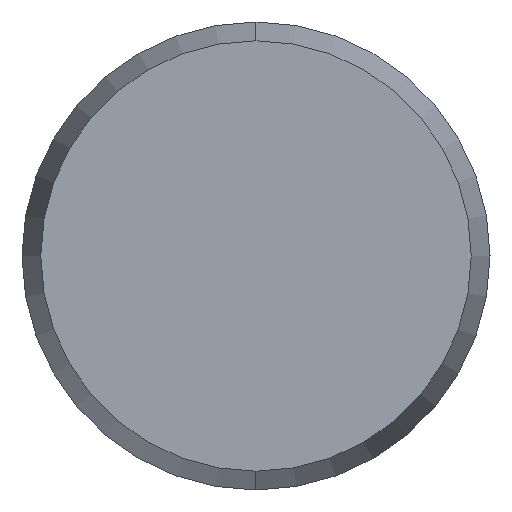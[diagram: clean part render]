
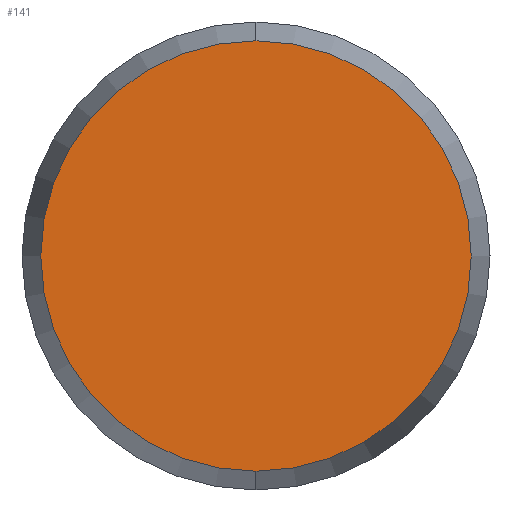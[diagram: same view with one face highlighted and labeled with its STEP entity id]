
A CAD part, left-side view. The second image highlights one B-rep face of the part: STEP entity #141.
In plain terms, the highlighted planar face has unit normal (-1, 0, 0).
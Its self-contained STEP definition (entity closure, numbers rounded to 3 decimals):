
#83 = DIRECTION ( 'NONE',  ( 0., 0., -1. ) ) ;
#84 = DIRECTION ( 'NONE',  ( 1., 0., 0. ) ) ;
#85 = CARTESIAN_POINT ( 'NONE',  ( -40., 0., 0. ) ) ;
#86 = AXIS2_PLACEMENT_3D ( 'NONE', #85, #84, #83 ) ;
#87 = PLANE ( 'NONE',  #86 ) ;
#88 = FACE_OUTER_BOUND ( 'NONE', #142, .T. ) ;
#89 = DIRECTION ( 'NONE',  ( 0., 0., -1. ) ) ;
#90 = DIRECTION ( 'NONE',  ( 1., 0., 0. ) ) ;
#91 = CARTESIAN_POINT ( 'NONE',  ( -40., 0., 0. ) ) ;
#92 = AXIS2_PLACEMENT_3D ( 'NONE', #91, #90, #89 ) ;
#93 = CIRCLE ( 'NONE', #92, 4.598 ) ;
#97 = CARTESIAN_POINT ( 'NONE',  ( -40., 0., -4.598 ) ) ;
#98 = CARTESIAN_POINT ( 'NONE',  ( -40., 0., 4.598 ) ) ;
#99 = DIRECTION ( 'NONE',  ( 0., 0., -1. ) ) ;
#100 = DIRECTION ( 'NONE',  ( 1., 0., 0. ) ) ;
#101 = CARTESIAN_POINT ( 'NONE',  ( -40., 0., 0. ) ) ;
#102 = AXIS2_PLACEMENT_3D ( 'NONE', #101, #100, #99 ) ;
#106 = CIRCLE ( 'NONE', #102, 4.598 ) ;
#130 = ORIENTED_EDGE ( 'NONE', *, *, #138, .F. ) ;
#138 = EDGE_CURVE ( 'NONE', #166, #165, #93, .T. ) ;
#141 = ADVANCED_FACE ( 'NONE', ( #88 ), #87, .F. ) ;
#142 = EDGE_LOOP ( 'NONE', ( #143, #130 ) ) ;
#143 = ORIENTED_EDGE ( 'NONE', *, *, #164, .F. ) ;
#164 = EDGE_CURVE ( 'NONE', #165, #166, #106, .T. ) ;
#165 = VERTEX_POINT ( 'NONE', #98 ) ;
#166 = VERTEX_POINT ( 'NONE', #97 ) ;
